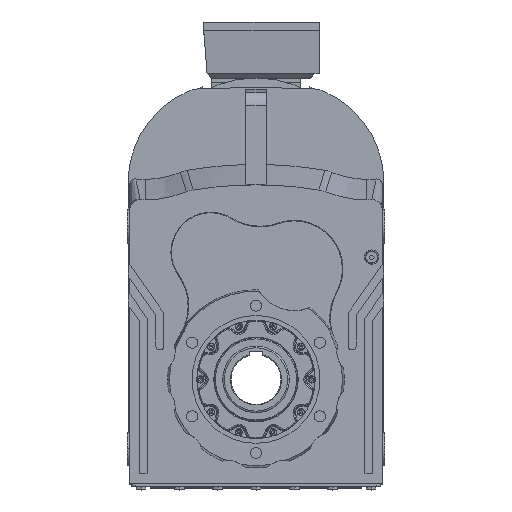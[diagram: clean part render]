
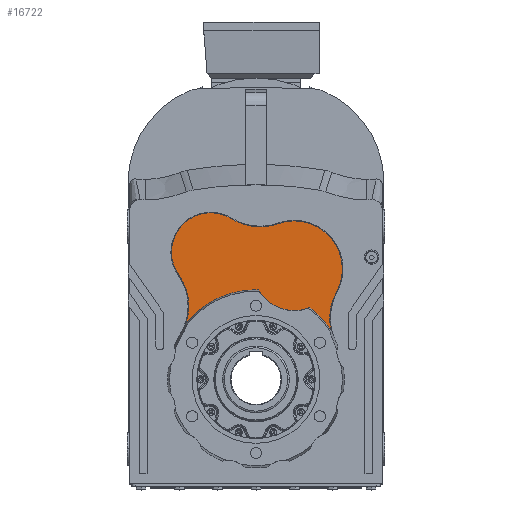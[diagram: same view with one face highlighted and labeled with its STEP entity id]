
A CAD part, top view. The second image highlights one B-rep face of the part: STEP entity #16722.
In plain terms, the highlighted planar face has unit normal (0, 0, 1).
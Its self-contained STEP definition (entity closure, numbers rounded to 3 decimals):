
#1323 = CARTESIAN_POINT ( 'NONE',  ( 68.633, 198.468, -26. ) ) ;
#1330 = DIRECTION ( 'NONE',  ( 0., 1., 0. ) ) ;
#1337 = DIRECTION ( 'NONE',  ( 0., 0., -1. ) ) ;
#2572 = CARTESIAN_POINT ( 'NONE',  ( 68.633, 198.468, -26. ) ) ;
#2578 = DIRECTION ( 'NONE',  ( -1., 0., 0. ) ) ;
#2615 = DIRECTION ( 'NONE',  ( 0., 0., 1. ) ) ;
#2985 = DIRECTION ( 'NONE',  ( 0., -1., 0. ) ) ;
#2986 = CARTESIAN_POINT ( 'NONE',  ( 230.015, 110.083, -26. ) ) ;
#2999 = CARTESIAN_POINT ( 'NONE',  ( 0., 0., -26. ) ) ;
#3004 = CARTESIAN_POINT ( 'NONE',  ( -218.299, 131.797, -26. ) ) ;
#3006 = DIRECTION ( 'NONE',  ( 0., 0., -1. ) ) ;
#3049 = DIRECTION ( 'NONE',  ( 1., 0., 0. ) ) ;
#3056 = CARTESIAN_POINT ( 'NONE',  ( 7.112, 371.878, -26. ) ) ;
#3058 = DIRECTION ( 'NONE',  ( 0., 0., -1. ) ) ;
#3064 = DIRECTION ( 'NONE',  ( 1., 0., 0. ) ) ;
#3084 = DIRECTION ( 'NONE',  ( 0., 0., -1. ) ) ;
#8715 = VERTEX_POINT ( 'NONE', #18344 ) ;
#8717 = VERTEX_POINT ( 'NONE', #18313 ) ;
#8731 = VERTEX_POINT ( 'NONE', #18354 ) ;
#8808 = VERTEX_POINT ( 'NONE', #18365 ) ;
#8825 = VERTEX_POINT ( 'NONE', #18375 ) ;
#8841 = VERTEX_POINT ( 'NONE', #18387 ) ;
#9272 = DIRECTION ( 'NONE',  ( -1., 0., 0. ) ) ;
#9281 = DIRECTION ( 'NONE',  ( 0., 0., -1. ) ) ;
#9289 = CARTESIAN_POINT ( 'NONE',  ( 0., 0., -26. ) ) ;
#9460 = DIRECTION ( 'NONE',  ( 0., 0., -1. ) ) ;
#9465 = CARTESIAN_POINT ( 'NONE',  ( -81.287, 229.015, -26. ) ) ;
#9503 = DIRECTION ( 'NONE',  ( -1., 0., 0. ) ) ;
#11594 = VERTEX_POINT ( 'NONE', #18962 ) ;
#11684 = VERTEX_POINT ( 'NONE', #19010 ) ;
#11688 = VERTEX_POINT ( 'NONE', #19031 ) ;
#11818 = VERTEX_POINT ( 'NONE', #18987 ) ;
#11923 = VERTEX_POINT ( 'NONE', #19044 ) ;
#11929 = VERTEX_POINT ( 'NONE', #19051 ) ;
#16722 = ADVANCED_FACE ( 'NONE', ( #106021 ), #34535, .T. ) ;
#18313 = CARTESIAN_POINT ( 'NONE',  ( -121.032, 131.797, -26. ) ) ;
#18344 = CARTESIAN_POINT ( 'NONE',  ( -152.019, 229.015, -26. ) ) ;
#18354 = CARTESIAN_POINT ( 'NONE',  ( -138.973, 188.084, -26. ) ) ;
#18365 = CARTESIAN_POINT ( 'NONE',  ( 39.633, 280.209, -26. ) ) ;
#18375 = CARTESIAN_POINT ( 'NONE',  ( 68.633, 285.201, -26. ) ) ;
#18387 = CARTESIAN_POINT ( 'NONE',  ( 7.112, 274.611, -26. ) ) ;
#18962 = CARTESIAN_POINT ( 'NONE',  ( 3.699, 161.474, -26. ) ) ;
#18987 = CARTESIAN_POINT ( 'NONE',  ( -44.069, 289.165, -26. ) ) ;
#19010 = CARTESIAN_POINT ( 'NONE',  ( 144.704, 156.806, -26. ) ) ;
#19031 = CARTESIAN_POINT ( 'NONE',  ( 96.842, 129.264, -26. ) ) ;
#19044 = CARTESIAN_POINT ( 'NONE',  ( -126.032, 101.012, -26. ) ) ;
#19051 = CARTESIAN_POINT ( 'NONE',  ( 135.204, 88.359, -26. ) ) ;
#24475 = EDGE_CURVE ( 'NONE', #11594, #11688, #52135, .T. ) ;
#24565 = EDGE_CURVE ( 'NONE', #8717, #11923, #52301, .T. ) ;
#24575 = EDGE_CURVE ( 'NONE', #8841, #11818, #52374, .T. ) ;
#24579 = EDGE_CURVE ( 'NONE', #11929, #11684, #52295, .T. ) ;
#24631 = EDGE_CURVE ( 'NONE', #8825, #11684, #52407, .T. ) ;
#24674 = EDGE_CURVE ( 'NONE', #11594, #11923, #52542, .T. ) ;
#24696 = EDGE_CURVE ( 'NONE', #11688, #11929, #52535, .T. ) ;
#24699 = EDGE_CURVE ( 'NONE', #8715, #11818, #52566, .T. ) ;
#29102 = ORIENTED_EDGE ( 'NONE', *, *, #24565, .T. ) ;
#29109 = ORIENTED_EDGE ( 'NONE', *, *, #24579, .T. ) ;
#29129 = ORIENTED_EDGE ( 'NONE', *, *, #95207, .F. ) ;
#29143 = ORIENTED_EDGE ( 'NONE', *, *, #24696, .T. ) ;
#29177 = ORIENTED_EDGE ( 'NONE', *, *, #95200, .T. ) ;
#29190 = ORIENTED_EDGE ( 'NONE', *, *, #24575, .T. ) ;
#29197 = ORIENTED_EDGE ( 'NONE', *, *, #95180, .F. ) ;
#29200 = ORIENTED_EDGE ( 'NONE', *, *, #24699, .F. ) ;
#29203 = ORIENTED_EDGE ( 'NONE', *, *, #24475, .T. ) ;
#29204 = ORIENTED_EDGE ( 'NONE', *, *, #24631, .F. ) ;
#29206 = ORIENTED_EDGE ( 'NONE', *, *, #95181, .T. ) ;
#29209 = ORIENTED_EDGE ( 'NONE', *, *, #24674, .F. ) ;
#30323 = EDGE_LOOP ( 'NONE', ( #29177, #29102, #29209, #29203, #29143, #29109, #29204, #29197, #29206, #29190, #29200, #29129 ) ) ;
#34513 = DIRECTION ( 'NONE',  ( 1., 0., 0. ) ) ;
#34516 = DIRECTION ( 'NONE',  ( 0., 0., 1. ) ) ;
#34532 = CARTESIAN_POINT ( 'NONE',  ( 37.872, 285.173, -26. ) ) ;
#34535 = PLANE ( 'NONE',  #52133 ) ;
#44450 = CIRCLE ( 'NONE', #91268, 97.267 ) ;
#44544 = CIRCLE ( 'NONE', #91266, 86.733 ) ;
#44570 = CIRCLE ( 'NONE', #91285, 70.733 ) ;
#44619 = CIRCLE ( 'NONE', #91287, 97.267 ) ;
#52133 = AXIS2_PLACEMENT_3D ( 'NONE', #34532, #34516, #34513 ) ;
#52135 = CIRCLE ( 'NONE', #87007, 74.733 ) ;
#52295 = CIRCLE ( 'NONE', #87100, 97.267 ) ;
#52301 = CIRCLE ( 'NONE', #87078, 97.267 ) ;
#52374 = CIRCLE ( 'NONE', #87060, 97.267 ) ;
#52407 = CIRCLE ( 'NONE', #87097, 86.733 ) ;
#52535 = CIRCLE ( 'NONE', #87065, 161.516 ) ;
#52542 = CIRCLE ( 'NONE', #87076, 161.516 ) ;
#52566 = CIRCLE ( 'NONE', #87051, 70.733 ) ;
#55802 = DIRECTION ( 'NONE',  ( 0., 0., -1. ) ) ;
#55805 = CARTESIAN_POINT ( 'NONE',  ( 7.112, 371.878, -26. ) ) ;
#55842 = DIRECTION ( 'NONE',  ( 0., -1., 0. ) ) ;
#55906 = DIRECTION ( 'NONE',  ( 0., 0., -1. ) ) ;
#55948 = DIRECTION ( 'NONE',  ( 0., 1., 0. ) ) ;
#56000 = CARTESIAN_POINT ( 'NONE',  ( 68.633, 198.468, -26. ) ) ;
#56052 = DIRECTION ( 'NONE',  ( 0., 0., -1. ) ) ;
#56193 = CARTESIAN_POINT ( 'NONE',  ( -218.299, 131.797, -26. ) ) ;
#56197 = DIRECTION ( 'NONE',  ( 1., 0., 0. ) ) ;
#56249 = CARTESIAN_POINT ( 'NONE',  ( -81.287, 229.015, -26. ) ) ;
#56337 = DIRECTION ( 'NONE',  ( -1., 0., 0. ) ) ;
#56379 = DIRECTION ( 'NONE',  ( 0., 0., -1. ) ) ;
#87007 = AXIS2_PLACEMENT_3D ( 'NONE', #2572, #2615, #2578 ) ;
#87051 = AXIS2_PLACEMENT_3D ( 'NONE', #9465, #9460, #9503 ) ;
#87060 = AXIS2_PLACEMENT_3D ( 'NONE', #3056, #3058, #2985 ) ;
#87065 = AXIS2_PLACEMENT_3D ( 'NONE', #9289, #9281, #9272 ) ;
#87076 = AXIS2_PLACEMENT_3D ( 'NONE', #2999, #107492, #107208 ) ;
#87078 = AXIS2_PLACEMENT_3D ( 'NONE', #3004, #3006, #3049 ) ;
#87097 = AXIS2_PLACEMENT_3D ( 'NONE', #1323, #1337, #1330 ) ;
#87100 = AXIS2_PLACEMENT_3D ( 'NONE', #2986, #3084, #3064 ) ;
#91266 = AXIS2_PLACEMENT_3D ( 'NONE', #56000, #55802, #55948 ) ;
#91268 = AXIS2_PLACEMENT_3D ( 'NONE', #55805, #55906, #55842 ) ;
#91285 = AXIS2_PLACEMENT_3D ( 'NONE', #56249, #56379, #56337 ) ;
#91287 = AXIS2_PLACEMENT_3D ( 'NONE', #56193, #56052, #56197 ) ;
#95180 = EDGE_CURVE ( 'NONE', #8808, #8825, #44544, .T. ) ;
#95181 = EDGE_CURVE ( 'NONE', #8808, #8841, #44450, .T. ) ;
#95200 = EDGE_CURVE ( 'NONE', #8731, #8717, #44619, .T. ) ;
#95207 = EDGE_CURVE ( 'NONE', #8731, #8715, #44570, .T. ) ;
#106021 = FACE_OUTER_BOUND ( 'NONE', #30323, .T. ) ;
#107208 = DIRECTION ( 'NONE',  ( -1., 0., 0. ) ) ;
#107492 = DIRECTION ( 'NONE',  ( 0., 0., 1. ) ) ;
